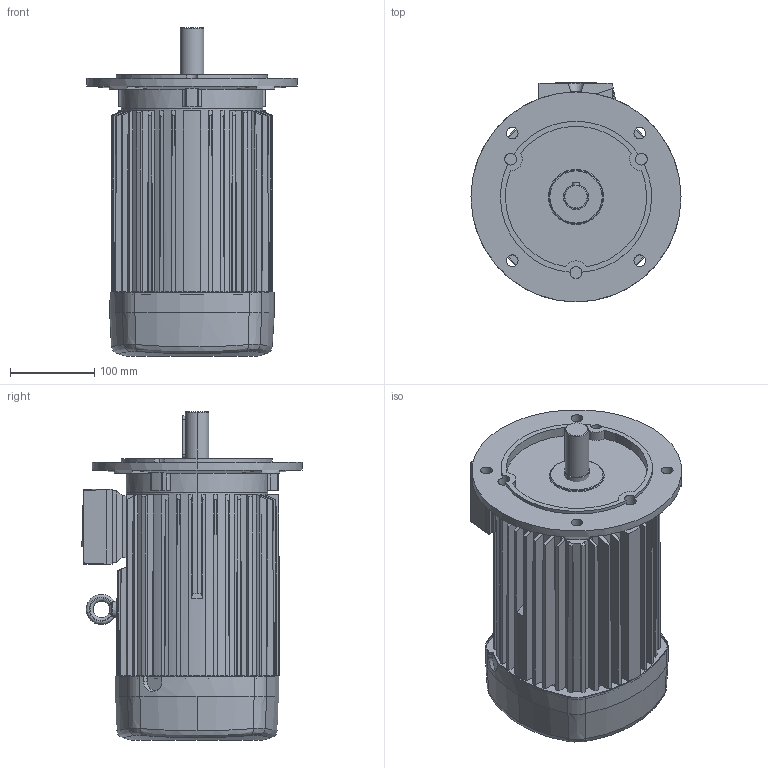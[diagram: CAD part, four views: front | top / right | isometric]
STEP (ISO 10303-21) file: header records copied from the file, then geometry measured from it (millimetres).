
FILE_DESCRIPTION (( 'STEP AP214' ), '1' );
FILE_NAME ('IE3-W41R100LX6_B5FF215.STEP', '2024-10-22T06:39:41', ( '' ), ( '' ), 'SwSTEP 2.0', 'SolidWorks 2023', '' );
FILE_SCHEMA (( 'AUTOMOTIVE_DESIGN' ));
Length unit declared in the file: millimetre
Products named in the file (10): Verschlussschraube_M25; KD05_Kat; Ringschraube_M8; WE_Kat_28x60; IE3-W41R100LX6_B5FF215; KA05_Kat; KA05_komplett_Kat_VSS_M25; G100L_Kat; LHB_Kat_LHB10; LF_FF_Kat_11FF215
Assembly tree (9 placements, depth 3):
  IE3-W41R100LX6_B5FF215
    G100L_Kat
    Ringschraube_M8
    LHB_Kat_LHB10
    KA05_komplett_Kat_VSS_M25
      KA05_Kat
      KD05_Kat
      Verschlussschraube_M25
    WE_Kat_28x60
    LF_FF_Kat_11FF215
Bounding box: 250 x 261.93 x 391 mm (x, y, z)
Volume: 9468475 mm3; surface area: 630257.6 mm2
Topology: 8 solids, 8 shells, 483 faces, 1269 edges, 814 vertices
Faces by surface type: plane 268, cylinder 104, cone 85, bspline 16, torus 8, sphere 2
Entity records: 16912 total; most frequent: CARTESIAN_POINT 5084, ORIENTED_EDGE 2538, DIRECTION 2301, EDGE_CURVE 1269, AXIS2_PLACEMENT_3D 845, VERTEX_POINT 814, VECTOR 611, LINE 611
